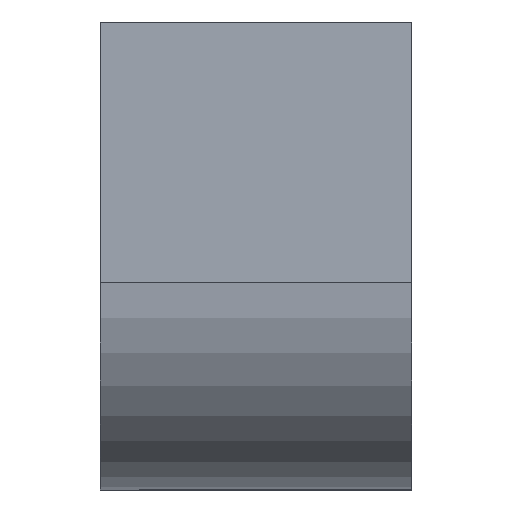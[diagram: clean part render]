
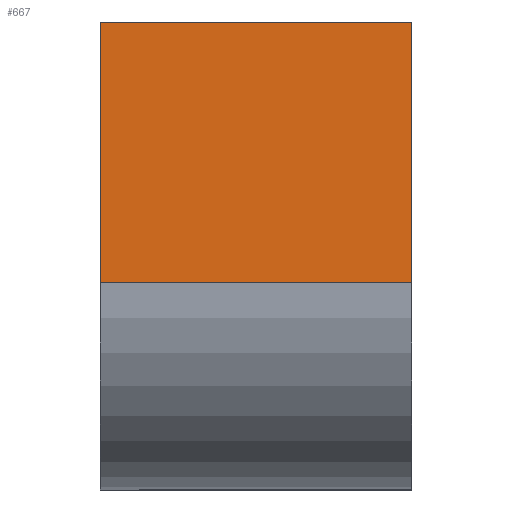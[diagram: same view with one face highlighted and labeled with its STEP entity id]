
A CAD part, left-side view. The second image highlights one B-rep face of the part: STEP entity #667.
In plain terms, the highlighted planar face has unit normal (-1, 0, 0).
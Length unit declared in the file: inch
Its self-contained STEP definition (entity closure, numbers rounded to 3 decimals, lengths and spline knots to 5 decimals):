
#9 = CARTESIAN_POINT ( 'NONE',  ( -1.557, 0.433, 0. ) ) ;
#52 = CARTESIAN_POINT ( 'NONE',  ( -1.557, -0.1, 0.446 ) ) ;
#85 = CARTESIAN_POINT ( 'NONE',  ( -1.557, -0.1, 0.446 ) ) ;
#105 = CARTESIAN_POINT ( 'NONE',  ( -1.557, 0.433, 0. ) ) ;
#114 = DIRECTION ( 'NONE',  ( 0., 0., 1. ) ) ;
#118 = EDGE_CURVE ( 'NONE', #224, #390, #170, .T. ) ;
#132 = VECTOR ( 'NONE', #333, 39.37008 ) ;
#154 = CARTESIAN_POINT ( 'NONE',  ( -1.557, -0.1, 0. ) ) ;
#170 = LINE ( 'NONE', #219, #410 ) ;
#197 = VECTOR ( 'NONE', #548, 39.37008 ) ;
#199 = FACE_OUTER_BOUND ( 'NONE', #416, .T. ) ;
#216 = ORIENTED_EDGE ( 'NONE', *, *, #248, .T. ) ;
#219 = CARTESIAN_POINT ( 'NONE',  ( -1.557, 0.433, 0.446 ) ) ;
#224 = VERTEX_POINT ( 'NONE', #620 ) ;
#239 = EDGE_CURVE ( 'NONE', #390, #478, #559, .T. ) ;
#248 = EDGE_CURVE ( 'NONE', #337, #478, #291, .T. ) ;
#291 = LINE ( 'NONE', #506, #197 ) ;
#310 = ORIENTED_EDGE ( 'NONE', *, *, #118, .F. ) ;
#333 = DIRECTION ( 'NONE',  ( 0., 0., -1. ) ) ;
#334 = ORIENTED_EDGE ( 'NONE', *, *, #239, .F. ) ;
#337 = VERTEX_POINT ( 'NONE', #105 ) ;
#350 = AXIS2_PLACEMENT_3D ( 'NONE', #358, #352, #575 ) ;
#352 = DIRECTION ( 'NONE',  ( 1., 0., 0. ) ) ;
#358 = CARTESIAN_POINT ( 'NONE',  ( -1.557, 0.433, 0. ) ) ;
#371 = LINE ( 'NONE', #9, #420 ) ;
#390 = VERTEX_POINT ( 'NONE', #52 ) ;
#410 = VECTOR ( 'NONE', #434, 39.37008 ) ;
#411 = PLANE ( 'NONE',  #350 ) ;
#416 = EDGE_LOOP ( 'NONE', ( #216, #334, #310, #664 ) ) ;
#420 = VECTOR ( 'NONE', #114, 39.37008 ) ;
#434 = DIRECTION ( 'NONE',  ( 0., -1., 0. ) ) ;
#478 = VERTEX_POINT ( 'NONE', #154 ) ;
#493 = EDGE_CURVE ( 'NONE', #337, #224, #371, .T. ) ;
#506 = CARTESIAN_POINT ( 'NONE',  ( -1.557, 0.433, 0. ) ) ;
#548 = DIRECTION ( 'NONE',  ( 0., -1., 0. ) ) ;
#559 = LINE ( 'NONE', #85, #132 ) ;
#575 = DIRECTION ( 'NONE',  ( 0., 0., -1. ) ) ;
#620 = CARTESIAN_POINT ( 'NONE',  ( -1.557, 0.433, 0.446 ) ) ;
#664 = ORIENTED_EDGE ( 'NONE', *, *, #493, .F. ) ;
#667 = ADVANCED_FACE ( 'NONE', ( #199 ), #411, .F. ) ;
